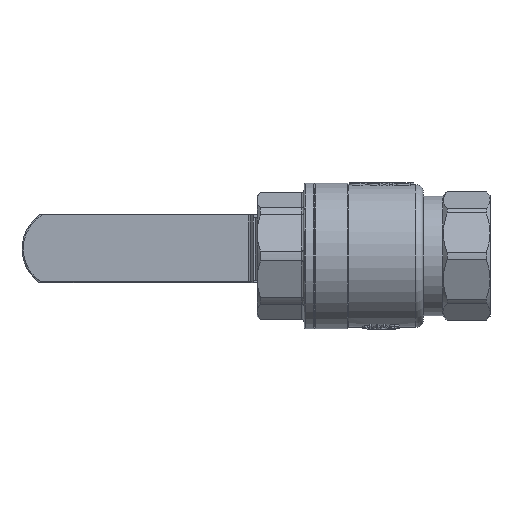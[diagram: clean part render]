
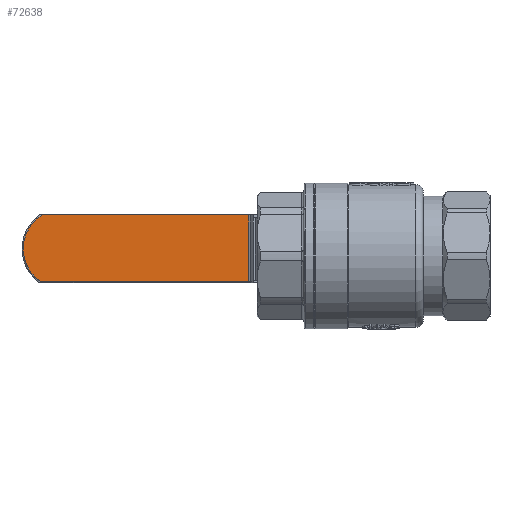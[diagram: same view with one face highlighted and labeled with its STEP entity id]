
A CAD part, front view. The second image highlights one B-rep face of the part: STEP entity #72638.
In plain terms, the highlighted planar face has unit normal (0, -1, 0).
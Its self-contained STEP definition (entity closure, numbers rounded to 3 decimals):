
#1544 = LINE ( 'NONE', #75748, #62915 ) ;
#2466 = VERTEX_POINT ( 'NONE', #55676 ) ;
#2632 = AXIS2_PLACEMENT_3D ( 'NONE', #47807, #5119, #33849 ) ;
#5119 = DIRECTION ( 'NONE',  ( 0., 1., 0. ) ) ;
#8068 = EDGE_LOOP ( 'NONE', ( #77370, #29457, #58847, #16536 ) ) ;
#10602 = DIRECTION ( 'NONE',  ( 0., 0., -1. ) ) ;
#15994 = FACE_OUTER_BOUND ( 'NONE', #8068, .T. ) ;
#16105 = VECTOR ( 'NONE', #75825, 1000. ) ;
#16536 = ORIENTED_EDGE ( 'NONE', *, *, #36837, .T. ) ;
#20084 = DIRECTION ( 'NONE',  ( 0., 0., 1. ) ) ;
#22745 = CARTESIAN_POINT ( 'NONE',  ( 49.971, 20.5, 13.15 ) ) ;
#28225 = VERTEX_POINT ( 'NONE', #22745 ) ;
#29279 = EDGE_CURVE ( 'NONE', #2466, #67387, #78261, .T. ) ;
#29457 = ORIENTED_EDGE ( 'NONE', *, *, #29279, .T. ) ;
#33675 = CARTESIAN_POINT ( 'NONE',  ( 49.971, 20.5, -13.65 ) ) ;
#33849 = DIRECTION ( 'NONE',  ( 0., 0., 1. ) ) ;
#34294 = LINE ( 'NONE', #45065, #88870 ) ;
#35052 = DIRECTION ( 'NONE',  ( 0., -1., 0. ) ) ;
#36837 = EDGE_CURVE ( 'NONE', #28225, #38558, #1544, .T. ) ;
#38558 = VERTEX_POINT ( 'NONE', #33675 ) ;
#41284 = CARTESIAN_POINT ( 'NONE',  ( 124.441, 20.5, 0. ) ) ;
#45065 = CARTESIAN_POINT ( 'NONE',  ( 49.971, 20.5, 13.15 ) ) ;
#47807 = CARTESIAN_POINT ( 'NONE',  ( 49.1, 20.5, 12.65 ) ) ;
#52535 = DIRECTION ( 'NONE',  ( -1., 0., 0. ) ) ;
#55676 = CARTESIAN_POINT ( 'NONE',  ( 132.901, 20.5, -13.65 ) ) ;
#57331 = LINE ( 'NONE', #90454, #16105 ) ;
#58847 = ORIENTED_EDGE ( 'NONE', *, *, #68360, .T. ) ;
#61698 = EDGE_CURVE ( 'NONE', #38558, #2466, #57331, .T. ) ;
#62915 = VECTOR ( 'NONE', #10602, 1000. ) ;
#64123 = CARTESIAN_POINT ( 'NONE',  ( 133.659, 20.5, 13.15 ) ) ;
#67387 = VERTEX_POINT ( 'NONE', #64123 ) ;
#68360 = EDGE_CURVE ( 'NONE', #67387, #28225, #34294, .T. ) ;
#72638 = ADVANCED_FACE ( 'NONE', ( #15994 ), #76171, .F. ) ;
#75748 = CARTESIAN_POINT ( 'NONE',  ( 49.971, 20.5, 12.65 ) ) ;
#75825 = DIRECTION ( 'NONE',  ( 1., 0., 0. ) ) ;
#76171 = PLANE ( 'NONE',  #2632 ) ;
#76695 = AXIS2_PLACEMENT_3D ( 'NONE', #41284, #35052, #20084 ) ;
#77370 = ORIENTED_EDGE ( 'NONE', *, *, #61698, .T. ) ;
#78261 = CIRCLE ( 'NONE', #76695, 16.059 ) ;
#88870 = VECTOR ( 'NONE', #52535, 1000. ) ;
#90454 = CARTESIAN_POINT ( 'NONE',  ( 49.1, 20.5, -13.65 ) ) ;
